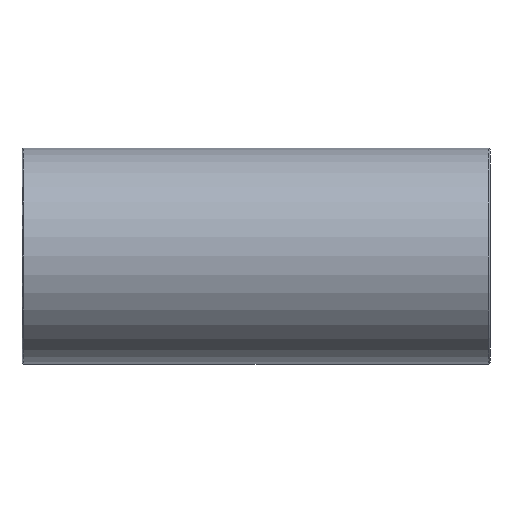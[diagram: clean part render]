
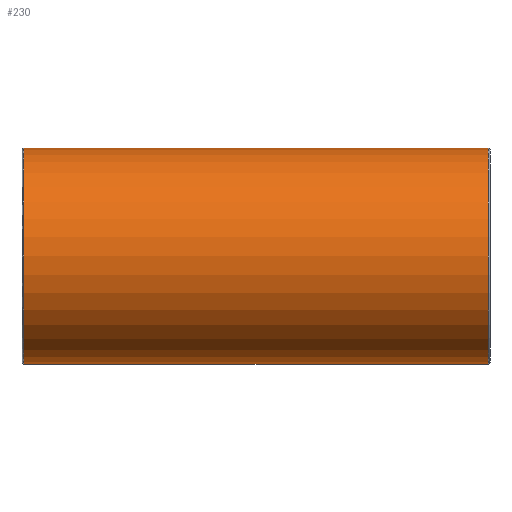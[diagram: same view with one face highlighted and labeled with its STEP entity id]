
A CAD part, front view. The second image highlights one B-rep face of the part: STEP entity #230.
In plain terms, the highlighted cylindrical face has radius 15 mm (diameter 30 mm), a full revolution.
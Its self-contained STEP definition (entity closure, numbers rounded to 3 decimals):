
#15=ELLIPSE('',#253,21.213,15.);
#16=ELLIPSE('',#254,21.213,15.);
#21=CYLINDRICAL_SURFACE('',#259,15.);
#38=FACE_BOUND('',#85,.T.);
#39=FACE_BOUND('',#86,.T.);
#59=FACE_OUTER_BOUND('',#84,.T.);
#84=EDGE_LOOP('',(#187));
#85=EDGE_LOOP('',(#188,#189));
#86=EDGE_LOOP('',(#190));
#118=CIRCLE('',#260,15.);
#119=CIRCLE('',#261,15.);
#134=VERTEX_POINT('',#383);
#135=VERTEX_POINT('',#384);
#138=VERTEX_POINT('',#394);
#139=VERTEX_POINT('',#396);
#156=EDGE_CURVE('',#134,#135,#15,.T.);
#157=EDGE_CURVE('',#135,#134,#16,.T.);
#160=EDGE_CURVE('',#138,#138,#118,.T.);
#161=EDGE_CURVE('',#139,#139,#119,.T.);
#187=ORIENTED_EDGE('',*,*,#160,.F.);
#188=ORIENTED_EDGE('',*,*,#156,.T.);
#189=ORIENTED_EDGE('',*,*,#157,.T.);
#190=ORIENTED_EDGE('',*,*,#161,.F.);
#230=ADVANCED_FACE('',(#59,#38,#39),#21,.T.);
#253=AXIS2_PLACEMENT_3D('',#385,#304,#305);
#254=AXIS2_PLACEMENT_3D('',#386,#306,#307);
#259=AXIS2_PLACEMENT_3D('',#393,#316,#317);
#260=AXIS2_PLACEMENT_3D('',#395,#318,#319);
#261=AXIS2_PLACEMENT_3D('',#397,#320,#321);
#304=DIRECTION('center_axis',(0.707,-0.707,0.));
#305=DIRECTION('ref_axis',(-0.707,-0.707,0.));
#306=DIRECTION('center_axis',(-0.707,-0.707,0.));
#307=DIRECTION('ref_axis',(-0.707,0.707,0.));
#316=DIRECTION('center_axis',(1.,0.,0.));
#317=DIRECTION('ref_axis',(0.,1.,0.));
#318=DIRECTION('center_axis',(-1.,0.,0.));
#319=DIRECTION('ref_axis',(0.,-1.,0.));
#320=DIRECTION('center_axis',(1.,0.,0.));
#321=DIRECTION('ref_axis',(0.,-1.,0.));
#383=CARTESIAN_POINT('',(0.,0.,-15.));
#384=CARTESIAN_POINT('',(0.,0.,15.));
#385=CARTESIAN_POINT('Origin',(0.,0.,0.));
#386=CARTESIAN_POINT('Origin',(0.,0.,0.));
#393=CARTESIAN_POINT('Origin',(0.,0.,
0.));
#394=CARTESIAN_POINT('',(-32.25,15.,0.));
#395=CARTESIAN_POINT('Origin',(-32.25,0.,0.));
#396=CARTESIAN_POINT('',(32.25,15.,0.));
#397=CARTESIAN_POINT('Origin',(32.25,0.,0.));
